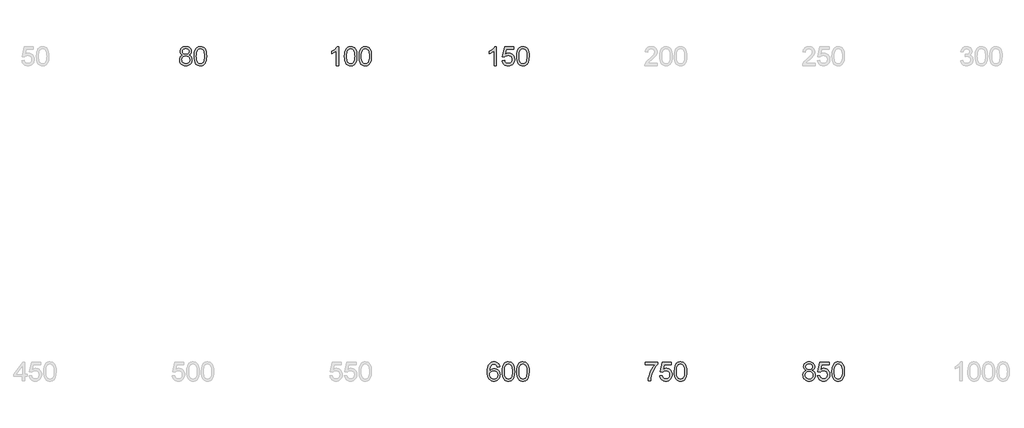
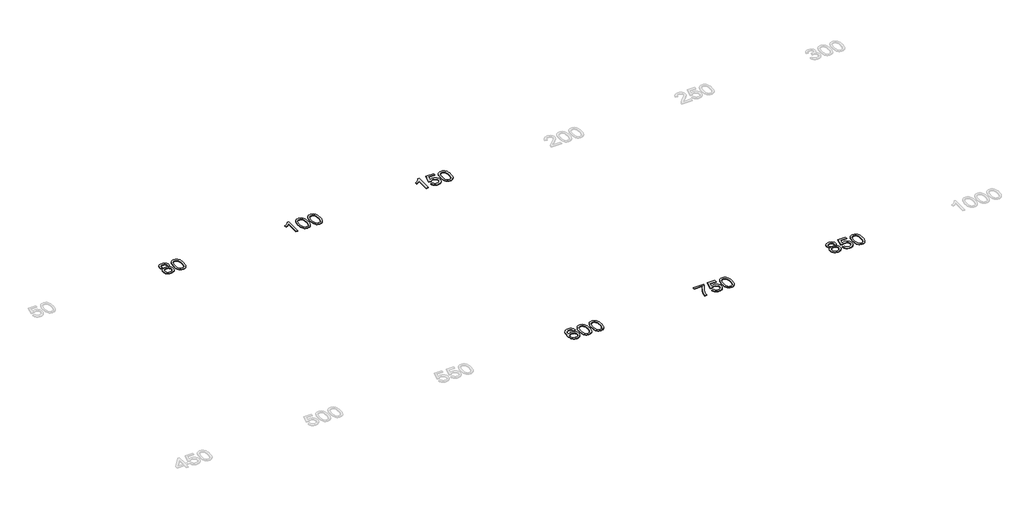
# One storey, part 4 of 8: 6 proxies.
"""IFC4 building model written with IfcOpenShell, lengths in millimetres."""

from ifc_helpers import new_model, si_unit, origin, origin_with_axes, place, context, project, spatial, polyline, outline, extrude, element, save

model = new_model("IFC4")

# Units and contexts
model_context = context("Model", 3, world=origin())
ifc_project = project(units=[si_unit("LENGTHUNIT", "METRE", prefix="MILLI")], contexts=[model_context])

# Site, building, storey
site = spatial("IfcSite", under=ifc_project)
building = spatial("IfcBuilding", under=site)
storey = spatial("IfcBuildingStorey", under=building, Name="Этаж 01", Elevation=0.0)

# Proxies
placement = place(None, origin())
element("IfcBuildingElementProxy", 1, Name="600 мм Arial", ObjectType="600 мм Arial", at=placement, inside=storey, context=model_context, shape_type="SweptSolid", body=[
    extrude(outline(polyline([(-21714.0240711, -3363.9163847), (-21754.3623319, -3344.050757), (-21770.0203093, -3331.4691927), (-21782.6708514, -3317.1217949), (-21799.3910881, -3283.6813215), (-21804.9645003, -3244.2811599), (-21801.9294738, -3213.5538162), (-21792.8243944, -3185.3832524), (-21777.6492621, -3159.7694685), (-21756.4040769, -3136.7124645), (-21730.1097113, -3117.6561771), (-21699.7870379, -3104.0445433), (-21665.4360566, -3095.877563), (-21627.0567674, -3093.1552362), (-21588.4935373, -3095.9419424), (-21553.8850386, -3104.3020607), (-21523.2312713, -3118.2355913), (-21496.5322355, -3137.7425341), (-21474.9007742, -3161.2501935), (-21459.4497304, -3187.1858742), (-21450.1791041, -3215.549576), (-21447.0888954, -3246.341299), (-21452.5887312, -3284.4722678), (-21469.0882387, -3317.3425241), (-21481.5088546, -3331.5933529), (-21496.7713588, -3344.1059393), (-21535.8220326, -3363.9163847), (-21511.0589758, -3374.4516053), (-21489.4505071, -3387.8103203), (-21470.9966265, -3403.9925295), (-21455.6973341, -3422.9982331), (-21443.6905855, -3444.4043667), (-21435.1143364, -3467.787866), (-21429.968587, -3493.1487311), (-21428.2533372, -3520.4869618), (-21431.6562457, -3558.0661076), (-21441.8649711, -3592.5182565), (-21458.8795133, -3623.8434084), (-21482.6998725, -3652.0415633), (-21512.0752498, -3675.3468877), (-21545.7548465, -3691.993548), (-21583.7386625, -3701.9815442), (-21626.0266978, -3705.3108762), (-21668.3147332, -3701.9677486), (-21706.2985492, -3691.9383657), (-21739.9781458, -3675.2227275), (-21769.3535232, -3651.8208341), (-21793.1738823, -3623.4249426), (-21810.1884246, -3591.7273102), (-21820.39715, -3556.7279369), (-21823.8000584, -3518.4268227), (-21822.0158308, -3489.8423916), (-21816.6631477, -3463.6859818), (-21807.7420094, -3439.9575931), (-21795.2524156, -3418.6572256), (-21779.470278, -3400.1711553), (-21760.6715081, -3384.8856584), (-21738.8561058, -3372.8007349), (-21714.0240711, -3363.9163847)]), holes=[polyline([(-21729.6222677, -3246.4884518), (-21727.9530031, -3263.7605115), (-21722.9452095, -3279.3771022), (-21714.5988867, -3293.3382239), (-21702.9140348, -3305.6438767), (-21688.0378066, -3315.6870551), (-21670.117355, -3322.860754), (-21649.1526798, -3327.1649734), (-21625.143781, -3328.5997132), (-21601.7280921, -3327.1741704), (-21581.2186708, -3322.8975422), (-21563.6155174, -3315.7698286), (-21548.9186316, -3305.7910295), (-21537.3303488, -3293.7428941), (-21529.0530039, -3280.4071718), (-21524.086597, -3265.7838625), (-21522.431128, -3249.8729662), (-21524.1417793, -3233.341269), (-21529.2737331, -3218.1799323), (-21537.8269895, -3204.388956), (-21549.8015484, -3191.9683401), (-21564.8295279, -3181.699834), (-21582.543046, -3174.3651867), (-21602.9421026, -3169.9643983), (-21626.0266978, -3168.4974689), (-21649.2906355, -3169.9322086), (-21669.7862612, -3174.236428), (-21687.5135748, -3181.4101269), (-21702.4725764, -3191.4533054), (-21714.3505664, -3203.5014407), (-21722.8348449, -3216.6900102), (-21727.925412, -3231.0190139), (-21729.6222677, -3246.4884518)]), polyline([(-21748.4578258, -3515.7780723), (-21745.3124348, -3544.6016266), (-21735.8762616, -3572.505476), (-21718.4570491, -3596.8408699), (-21691.3625402, -3614.9590582), (-21658.9153482, -3626.2162473), (-21625.4380866, -3629.9686436), (-21598.1964249, -3627.9958764), (-21574.1553365, -3622.0775748), (-21553.3148215, -3612.2137388), (-21535.6748798, -3598.4043684), (-21521.6401817, -3581.5507745), (-21511.6153973, -3562.554268), (-21505.6005267, -3541.4148488), (-21503.5955698, -3518.1325171), (-21505.6649061, -3494.4777048), (-21511.8729147, -3472.9566081), (-21522.2195958, -3453.5692269), (-21536.7049494, -3436.3155613), (-21554.8231377, -3422.1521045), (-21576.0683229, -3412.0353497), (-21600.4405051, -3405.9652967), (-21627.9396842, -3403.9419458), (-21654.7812743, -3405.9377056), (-21678.5050644, -3411.9249851), (-21699.1110547, -3421.9037842), (-21716.599245, -3435.8741029), (-21730.5373741, -3452.84266), (-21740.4931806, -3471.8161739), (-21746.4666645, -3492.7946447), (-21748.4578258, -3515.7780723)])]), origin_with_axes(), (0.0, 0.0, 1.0), 20.0),
    extrude(outline(polyline([(-21362.3288837, -3399.380209), (-21356.7922597, -3302.9031558), (-21349.8714796, -3261.9900794), (-21340.1823876, -3225.9606365), (-21327.7663702, -3194.5205215), (-21312.6648143, -3167.3754288), (-21294.8777199, -3144.5253583), (-21274.4050868, -3125.9703102), (-21251.1779374, -3111.6137153), (-21225.1272936, -3101.3590047), (-21196.2531555, -3095.2061784), (-21164.5555231, -3093.1552362), (-21118.1288153, -3098.0112786), (-21076.5581498, -3112.5794056), (-21041.7933013, -3136.2894002), (-21015.7840442, -3168.5710453), (-20996.1391457, -3209.1484293), (-20980.4673727, -3257.7456409), (-20970.203465, -3319.4578456), (-20966.7821625, -3399.380209), (-20972.2636042, -3495.3054393), (-20979.1154064, -3536.0805599), (-20988.7079294, -3572.0640176), (-21001.0273777, -3603.5179281), (-21016.0599557, -3630.7044076), (-21033.8056635, -3653.6234559), (-21054.2645009, -3672.275073), (-21077.5192416, -3686.7282369), (-21103.6526588, -3697.0519254), (-21132.6647526, -3703.2461385), (-21164.5555231, -3705.3108762), (-21206.0526121, -3701.7240268), (-21242.8408117, -3690.9634784), (-21274.9201216, -3673.0292311), (-21302.2905421, -3647.921285), (-21328.5573165, -3602.5338438), (-21347.3192983, -3545.9811841), (-21358.5764873, -3478.2633058), (-21362.3288837, -3399.380209)]), holes=[polyline([(-21286.9866511, -3399.2330562), (-21284.7793591, -3464.7298469), (-21278.1574832, -3517.746241), (-21267.1210233, -3558.2822383), (-21251.6699795, -3586.337839), (-21232.9815742, -3605.426316), (-21212.2330297, -3619.0609424), (-21189.424346, -3627.2417183), (-21164.5555231, -3629.9686436), (-21139.6867002, -3627.2325213), (-21116.8780165, -3619.0241542), (-21096.129472, -3605.3435426), (-21077.4410666, -3586.1906862), (-21061.9900228, -3558.0891003), (-21050.953563, -3517.5623), (-21044.3316871, -3464.6102853), (-21042.1243951, -3399.2330562), (-21044.2581107, -3335.4699094), (-21050.6592574, -3283.3870159), (-21061.3278352, -3242.9843758), (-21076.2638442, -3214.2619891), (-21094.6395499, -3194.2400115), (-21115.6272177, -3179.9385989), (-21139.2268477, -3171.3577514), (-21165.4384399, -3168.4974689), (-21190.1785041, -3171.0174605), (-21212.6009117, -3178.5774355), (-21232.7056627, -3191.1773939), (-21250.4927572, -3208.8173355), (-21266.4588358, -3240.0873051), (-21277.8631776, -3282.2465818), (-21284.7057827, -3335.2951655), (-21286.9866511, -3399.2330562)])]), origin_with_axes(), (0.0, 0.0, 1.0), 20.0),
])
element("IfcBuildingElementProxy", 2, Name="600 мм Arial", ObjectType="600 мм Arial", at=placement, inside=storey, context=model_context, shape_type="SweptSolid", body=[
    extrude(outline(polyline([(-16772.0022735, -3695.8930971), (-16847.3445061, -3695.8930971), (-16847.3445061, -3226.1813657), (-16878.7984167, -3251.6204057), (-16918.7136132, -3277.0226574), (-16960.6153725, -3299.2243358), (-16998.0289714, -3315.0616557), (-16998.0289714, -3243.8397015), (-16938.8551524, -3211.6500269), (-16887.5907964, -3173.3535112), (-16847.1789592, -3132.6289743), (-16820.5626969, -3093.1552362), (-16772.0022735, -3093.1552362), (-16772.0022735, -3695.8930971)])), origin_with_axes(), (0.0, 0.0, 1.0), 20.0),
    extrude(outline(polyline([(-16593.0644711, -3399.380209), (-16587.527847, -3302.9031558), (-16580.607067, -3261.9900794), (-16570.917975, -3225.9606365), (-16558.5019576, -3194.5205215), (-16543.4004017, -3167.3754288), (-16525.6133073, -3144.5253583), (-16505.1406742, -3125.9703102), (-16481.9135248, -3111.6137153), (-16455.862881, -3101.3590047), (-16426.9887429, -3095.2061784), (-16395.2911105, -3093.1552362), (-16348.8644027, -3098.0112786), (-16307.2937372, -3112.5794056), (-16272.5288887, -3136.2894002), (-16246.5196316, -3168.5710453), (-16226.8747331, -3209.1484293), (-16211.2029601, -3257.7456409), (-16200.9390524, -3319.4578456), (-16197.5177499, -3399.380209), (-16202.9991916, -3495.3054393), (-16209.8509937, -3536.0805599), (-16219.4435168, -3572.0640176), (-16231.7629651, -3603.5179281), (-16246.7955431, -3630.7044076), (-16264.5412509, -3653.6234559), (-16285.0000883, -3672.275073), (-16308.2548289, -3686.7282369), (-16334.3882462, -3697.0519254), (-16363.40034, -3703.2461385), (-16395.2911105, -3705.3108762), (-16436.7881995, -3701.7240268), (-16473.576399, -3690.9634784), (-16505.655709, -3673.0292311), (-16533.0261295, -3647.921285), (-16559.2929039, -3602.5338438), (-16578.0548857, -3545.9811841), (-16589.3120747, -3478.2633058), (-16593.0644711, -3399.380209)]), holes=[polyline([(-16517.7222385, -3399.2330562), (-16515.5149465, -3464.7298469), (-16508.8930706, -3517.746241), (-16497.8566107, -3558.2822383), (-16482.4055669, -3586.337839), (-16463.7171616, -3605.426316), (-16442.968617, -3619.0609424), (-16420.1599333, -3627.2417183), (-16395.2911105, -3629.9686436), (-16370.4222876, -3627.2325213), (-16347.6136039, -3619.0241542), (-16326.8650594, -3605.3435426), (-16308.176654, -3586.1906862), (-16292.7256102, -3558.0891003), (-16281.6891504, -3517.5623), (-16275.0672744, -3464.6102853), (-16272.8599825, -3399.2330562), (-16274.993698, -3335.4699094), (-16281.3948448, -3283.3870159), (-16292.0634226, -3242.9843758), (-16306.9994316, -3214.2619891), (-16325.3751373, -3194.2400115), (-16346.3628051, -3179.9385989), (-16369.9624351, -3171.3577514), (-16396.1740273, -3168.4974689), (-16420.9140914, -3171.0174605), (-16443.336499, -3178.5774355), (-16463.4412501, -3191.1773939), (-16481.2283445, -3208.8173355), (-16497.1944231, -3240.0873051), (-16508.598765, -3282.2465818), (-16515.4413701, -3335.2951655), (-16517.7222385, -3399.2330562)])]), origin_with_axes(), (0.0, 0.0, 1.0), 20.0),
    extrude(outline(polyline([(-16131.5932963, -3399.380209), (-16126.0566723, -3302.9031558), (-16119.1358923, -3261.9900794), (-16109.4468002, -3225.9606365), (-16097.0307829, -3194.5205215), (-16081.929227, -3167.3754288), (-16064.1421325, -3144.5253583), (-16043.6694995, -3125.9703102), (-16020.44235, -3111.6137153), (-15994.3917062, -3101.3590047), (-15965.5175681, -3095.2061784), (-15933.8199357, -3093.1552362), (-15887.3932279, -3098.0112786), (-15845.8225625, -3112.5794056), (-15811.0577139, -3136.2894002), (-15785.0484569, -3168.5710453), (-15765.4035583, -3209.1484293), (-15749.7317853, -3257.7456409), (-15739.4678777, -3319.4578456), (-15736.0465751, -3399.380209), (-15741.5280168, -3495.3054393), (-15748.379819, -3536.0805599), (-15757.972342, -3572.0640176), (-15770.2917903, -3603.5179281), (-15785.3243684, -3630.7044076), (-15803.0700761, -3653.6234559), (-15823.5289136, -3672.275073), (-15846.7836542, -3686.7282369), (-15872.9170714, -3697.0519254), (-15901.9291653, -3703.2461385), (-15933.8199357, -3705.3108762), (-15975.3170248, -3701.7240268), (-16012.1052243, -3690.9634784), (-16044.1845343, -3673.0292311), (-16071.5549547, -3647.921285), (-16097.8217292, -3602.5338438), (-16116.5837109, -3545.9811841), (-16127.8409, -3478.2633058), (-16131.5932963, -3399.380209)]), holes=[polyline([(-16056.2510637, -3399.2330562), (-16054.0437717, -3464.7298469), (-16047.4218958, -3517.746241), (-16036.385436, -3558.2822383), (-16020.9343922, -3586.337839), (-16002.2459868, -3605.426316), (-15981.4974423, -3619.0609424), (-15958.6887586, -3627.2417183), (-15933.8199357, -3629.9686436), (-15908.9511128, -3627.2325213), (-15886.1424291, -3619.0241542), (-15865.3938846, -3605.3435426), (-15846.7054793, -3586.1906862), (-15831.2544355, -3558.0891003), (-15820.2179756, -3517.5623), (-15813.5960997, -3464.6102853), (-15811.3888077, -3399.2330562), (-15813.5225233, -3335.4699094), (-15819.92367, -3283.3870159), (-15830.5922479, -3242.9843758), (-15845.5282569, -3214.2619891), (-15863.9039625, -3194.2400115), (-15884.8916304, -3179.9385989), (-15908.4912603, -3171.3577514), (-15934.7028525, -3168.4974689), (-15959.4429167, -3171.0174605), (-15981.8653243, -3178.5774355), (-16001.9700753, -3191.1773939), (-16019.7571698, -3208.8173355), (-16035.7232484, -3240.0873051), (-16047.1275902, -3282.2465818), (-16053.9701953, -3335.2951655), (-16056.2510637, -3399.2330562)])]), origin_with_axes(), (0.0, 0.0, 1.0), 20.0),
])
element("IfcBuildingElementProxy", 3, Name="600 мм Arial", ObjectType="600 мм Arial", at=placement, inside=storey, context=model_context, shape_type="SweptSolid", body=[
    extrude(outline(polyline([(-11772.0022735, -3695.8930971), (-11847.3445061, -3695.8930971), (-11847.3445061, -3226.1813657), (-11878.7984167, -3251.6204057), (-11918.7136132, -3277.0226574), (-11960.6153725, -3299.2243358), (-11998.0289714, -3315.0616557), (-11998.0289714, -3243.8397015), (-11938.8551524, -3211.6500269), (-11887.5907964, -3173.3535112), (-11847.1789592, -3132.6289743), (-11820.5626969, -3093.1552362), (-11772.0022735, -3093.1552362), (-11772.0022735, -3695.8930971)])), origin_with_axes(), (0.0, 0.0, 1.0), 20.0),
    extrude(outline(polyline([(-11593.0644711, -3535.7908528), (-11517.7222385, -3526.3730738), (-11512.0936439, -3550.5935046), (-11503.8898754, -3571.6041651), (-11493.110933, -3589.4050551), (-11479.7568166, -3603.9961747), (-11463.8551173, -3615.3591299), (-11445.4334264, -3623.4755264), (-11424.4917438, -3628.3453643), (-11401.0300696, -3629.9686436), (-11372.335274, -3627.7107679), (-11347.0249927, -3620.9371406), (-11325.0992258, -3609.6477619), (-11306.5579732, -3593.8426317), (-11291.8151023, -3574.3034992), (-11281.2844802, -3551.8121137), (-11274.9661069, -3526.3684752), (-11272.8599825, -3497.9725837), (-11274.8327497, -3471.1355922), (-11280.7510513, -3447.2784448), (-11290.6148873, -3426.4011416), (-11304.4242577, -3408.5036825), (-11322.2251477, -3394.1470876), (-11344.0635426, -3383.892377), (-11369.9394425, -3377.7395507), (-11399.8528472, -3375.6886085), (-11436.4019234, -3378.9627583), (-11465.9980299, -3388.7852076), (-11489.6344481, -3403.8315812), (-11508.3044594, -3422.7775039), (-11583.646692, -3413.3597248), (-11517.7222385, -3102.5730153), (-11225.7710871, -3102.5730153), (-11225.7710871, -3177.9152479), (-11456.8009801, -3177.9152479), (-11489.0274428, -3343.9036042), (-11462.4387716, -3324.8473168), (-11435.2063069, -3311.235683), (-11407.3300488, -3303.0687027), (-11378.8099971, -3300.3463759), (-11342.1183666, -3303.7216932), (-11308.4157773, -3313.8476451), (-11277.7022292, -3330.7242317), (-11249.9777224, -3354.3514528), (-11227.0264844, -3383.2853717), (-11210.632743, -3416.0820516), (-11200.7964981, -3452.7414924), (-11197.5177499, -3493.2636942), (-11200.4700029, -3532.2959739), (-11209.3267619, -3568.6059268), (-11224.088027, -3602.193553), (-11244.753798, -3633.0588524), (-11276.0605558, -3664.6691128), (-11312.5912379, -3687.2478703), (-11354.3458444, -3700.7951247), (-11401.3243752, -3705.3108762), (-11440.2049035, -3702.409207), (-11475.3238385, -3693.7041993), (-11506.6811801, -3679.1958531), (-11534.2769282, -3658.8841684), (-11557.2373633, -3633.7808208), (-11574.6887654, -3604.8974856), (-11586.6311347, -3572.234163), (-11593.0644711, -3535.7908528)])), origin_with_axes(), (0.0, 0.0, 1.0), 20.0),
    extrude(outline(polyline([(-11131.5932963, -3399.380209), (-11126.0566723, -3302.9031558), (-11119.1358923, -3261.9900794), (-11109.4468002, -3225.9606365), (-11097.0307829, -3194.5205215), (-11081.929227, -3167.3754288), (-11064.1421325, -3144.5253583), (-11043.6694995, -3125.9703102), (-11020.44235, -3111.6137153), (-10994.3917062, -3101.3590047), (-10965.5175681, -3095.2061784), (-10933.8199357, -3093.1552362), (-10887.3932279, -3098.0112786), (-10845.8225625, -3112.5794056), (-10811.0577139, -3136.2894002), (-10785.0484569, -3168.5710453), (-10765.4035583, -3209.1484293), (-10749.7317853, -3257.7456409), (-10739.4678777, -3319.4578456), (-10736.0465751, -3399.380209), (-10741.5280168, -3495.3054393), (-10748.379819, -3536.0805599), (-10757.972342, -3572.0640176), (-10770.2917903, -3603.5179281), (-10785.3243684, -3630.7044076), (-10803.0700761, -3653.6234559), (-10823.5289136, -3672.275073), (-10846.7836542, -3686.7282369), (-10872.9170714, -3697.0519254), (-10901.9291653, -3703.2461385), (-10933.8199357, -3705.3108762), (-10975.3170248, -3701.7240268), (-11012.1052243, -3690.9634784), (-11044.1845343, -3673.0292311), (-11071.5549547, -3647.921285), (-11097.8217292, -3602.5338438), (-11116.5837109, -3545.9811841), (-11127.8409, -3478.2633058), (-11131.5932963, -3399.380209)]), holes=[polyline([(-11056.2510637, -3399.2330562), (-11054.0437717, -3464.7298469), (-11047.4218958, -3517.746241), (-11036.385436, -3558.2822383), (-11020.9343922, -3586.337839), (-11002.2459868, -3605.426316), (-10981.4974423, -3619.0609424), (-10958.6887586, -3627.2417183), (-10933.8199357, -3629.9686436), (-10908.9511128, -3627.2325213), (-10886.1424291, -3619.0241542), (-10865.3938846, -3605.3435426), (-10846.7054793, -3586.1906862), (-10831.2544355, -3558.0891003), (-10820.2179756, -3517.5623), (-10813.5960997, -3464.6102853), (-10811.3888077, -3399.2330562), (-10813.5225233, -3335.4699094), (-10819.92367, -3283.3870159), (-10830.5922479, -3242.9843758), (-10845.5282569, -3214.2619891), (-10863.9039625, -3194.2400115), (-10884.8916304, -3179.9385989), (-10908.4912603, -3171.3577514), (-10934.7028525, -3168.4974689), (-10959.4429167, -3171.0174605), (-10981.8653243, -3178.5774355), (-11001.9700753, -3191.1773939), (-11019.7571698, -3208.8173355), (-11035.7232484, -3240.0873051), (-11047.1275902, -3282.2465818), (-11053.9701953, -3335.2951655), (-11056.2510637, -3399.2330562)])]), origin_with_axes(), (0.0, 0.0, 1.0), 20.0),
])
element("IfcBuildingElementProxy", 4, Name="600 мм Arial", ObjectType="600 мм Arial", at=placement, inside=storey, context=model_context, shape_type="SweptSolid", body=[
    extrude(outline(polyline([(-11668.4067037, -13253.2574805), (-11743.7489363, -13262.6752596), (-11755.8890421, -13225.3352371), (-11772.2965791, -13199.8410148), (-11788.492584, -13186.1282135), (-11806.4728165, -13176.3333554), (-11826.2372767, -13170.4564405), (-11847.7859645, -13168.4974689), (-11882.8083305, -13173.0592056), (-11915.7705572, -13186.7444158), (-11944.0790768, -13215.5679701), (-11967.2004602, -13255.2440433), (-11976.2365617, -13280.5497261), (-11982.8170509, -13311.3644417), (-11988.6111923, -13389.5209716), (-11958.3896864, -13354.2594823), (-11922.171704, -13329.4090535), (-11881.980596, -13314.6753796), (-11839.8397134, -13309.764155), (-11803.6401251, -13313.1210782), (-11770.2364399, -13323.1918478), (-11739.6286579, -13339.9764639), (-11711.8167791, -13363.4749263), (-11688.7045928, -13392.2892836), (-11672.1958882, -13425.0215841), (-11662.2906655, -13461.6718279), (-11658.9889246, -13502.2400149), (-11660.543226, -13529.7070043), (-11665.2061303, -13556.1899095), (-11672.9776375, -13581.6887303), (-11683.8577475, -13606.2034667), (-11697.4601843, -13628.8190124), (-11713.3986717, -13648.6202608), (-11731.6732098, -13665.6072119), (-11752.2837986, -13679.7798658), (-11774.7889796, -13690.9496828), (-11798.7472946, -13698.9281236), (-11824.1587434, -13703.7151881), (-11851.0233261, -13705.3108762), (-11895.9371192, -13701.0802333), (-11936.5007077, -13688.3883044), (-11972.7140916, -13667.2350897), (-12004.5772709, -13637.6205891), (-12030.5543383, -13598.2940038), (-12049.1093864, -13548.0045351), (-12060.2424153, -13486.7521829), (-12063.9534249, -13414.5369472), (-12059.8331465, -13333.5753171), (-12047.4723115, -13264.4778814), (-12026.8709198, -13207.24464), (-12013.4800152, -13183.0770922), (-11998.0289714, -13161.8755929), (-11966.7681988, -13131.8104369), (-11930.5226252, -13110.3353254), (-11889.2922506, -13097.4502585), (-11843.077075, -13093.1552362), (-11808.3766058, -13095.8131837), (-11776.9686805, -13103.7870259), (-11748.853299, -13117.076763), (-11724.0304614, -13135.6823949), (-11703.1715522, -13158.9785222), (-11686.9479562, -13186.3397456), (-11675.3596734, -13217.7660651), (-11668.4067037, -13253.2574805)]), holes=[polyline([(-11988.6111923, -13501.0627925), (-11984.2517906, -13534.4480836), (-11971.1735857, -13566.3250584), (-11950.8664996, -13593.7322671), (-11924.8204543, -13613.7082594), (-11893.3849378, -13625.9035476), (-11856.909438, -13629.9686436), (-11830.7208385, -13627.8625192), (-11807.1901864, -13621.5441459), (-11786.3174817, -13611.0135238), (-11768.1027244, -13596.2706528), (-11753.3276637, -13577.9133413), (-11742.774049, -13556.5393974), (-11736.4418802, -13532.1488211), (-11734.3311572, -13504.7416124), (-11736.414289, -13478.4058601), (-11742.6636844, -13455.0223608), (-11753.0793434, -13434.5911145), (-11767.661266, -13417.1121212), (-11785.9312056, -13403.1096128), (-11807.4109156, -13393.107821), (-11832.100396, -13387.106746), (-11859.9996468, -13385.1063876), (-11885.8387584, -13387.106746), (-11909.645322, -13393.107821), (-11931.4193376, -13403.1096128), (-11951.1608052, -13417.1121212), (-11967.5453495, -13434.3611882), (-11979.2485955, -13454.1026558), (-11986.2705431, -13476.3365239), (-11988.6111923, -13501.0627925)])]), origin_with_axes(), (0.0, 0.0, 1.0), 20.0),
    extrude(outline(polyline([(-11593.0644711, -13399.380209), (-11587.527847, -13302.9031558), (-11580.607067, -13261.9900794), (-11570.917975, -13225.9606365), (-11558.5019576, -13194.5205215), (-11543.4004017, -13167.3754288), (-11525.6133073, -13144.5253583), (-11505.1406742, -13125.9703102), (-11481.9135248, -13111.6137153), (-11455.862881, -13101.3590047), (-11426.9887429, -13095.2061784), (-11395.2911105, -13093.1552362), (-11348.8644027, -13098.0112786), (-11307.2937372, -13112.5794056), (-11272.5288887, -13136.2894002), (-11246.5196316, -13168.5710453), (-11226.8747331, -13209.1484293), (-11211.2029601, -13257.7456409), (-11200.9390524, -13319.4578456), (-11197.5177499, -13399.380209), (-11202.9991916, -13495.3054393), (-11209.8509937, -13536.0805599), (-11219.4435168, -13572.0640176), (-11231.7629651, -13603.5179281), (-11246.7955431, -13630.7044076), (-11264.5412509, -13653.6234559), (-11285.0000883, -13672.275073), (-11308.2548289, -13686.7282369), (-11334.3882462, -13697.0519254), (-11363.40034, -13703.2461385), (-11395.2911105, -13705.3108762), (-11436.7881995, -13701.7240268), (-11473.576399, -13690.9634784), (-11505.655709, -13673.0292311), (-11533.0261295, -13647.921285), (-11559.2929039, -13602.5338438), (-11578.0548857, -13545.9811841), (-11589.3120747, -13478.2633058), (-11593.0644711, -13399.380209)]), holes=[polyline([(-11517.7222385, -13399.2330562), (-11515.5149465, -13464.7298469), (-11508.8930706, -13517.746241), (-11497.8566107, -13558.2822383), (-11482.4055669, -13586.337839), (-11463.7171616, -13605.426316), (-11442.968617, -13619.0609424), (-11420.1599333, -13627.2417183), (-11395.2911105, -13629.9686436), (-11370.4222876, -13627.2325213), (-11347.6136039, -13619.0241542), (-11326.8650594, -13605.3435426), (-11308.176654, -13586.1906862), (-11292.7256102, -13558.0891003), (-11281.6891504, -13517.5623), (-11275.0672744, -13464.6102853), (-11272.8599825, -13399.2330562), (-11274.993698, -13335.4699094), (-11281.3948448, -13283.3870159), (-11292.0634226, -13242.9843758), (-11306.9994316, -13214.2619891), (-11325.3751373, -13194.2400115), (-11346.3628051, -13179.9385989), (-11369.9624351, -13171.3577514), (-11396.1740273, -13168.4974689), (-11420.9140914, -13171.0174605), (-11443.336499, -13178.5774355), (-11463.4412501, -13191.1773939), (-11481.2283445, -13208.8173355), (-11497.1944231, -13240.0873051), (-11508.598765, -13282.2465818), (-11515.4413701, -13335.2951655), (-11517.7222385, -13399.2330562)])]), origin_with_axes(), (0.0, 0.0, 1.0), 20.0),
    extrude(outline(polyline([(-11131.5932963, -13399.380209), (-11126.0566723, -13302.9031558), (-11119.1358923, -13261.9900794), (-11109.4468002, -13225.9606365), (-11097.0307829, -13194.5205215), (-11081.929227, -13167.3754288), (-11064.1421325, -13144.5253583), (-11043.6694995, -13125.9703102), (-11020.44235, -13111.6137153), (-10994.3917062, -13101.3590047), (-10965.5175681, -13095.2061784), (-10933.8199357, -13093.1552362), (-10887.3932279, -13098.0112786), (-10845.8225625, -13112.5794056), (-10811.0577139, -13136.2894002), (-10785.0484569, -13168.5710453), (-10765.4035583, -13209.1484293), (-10749.7317853, -13257.7456409), (-10739.4678777, -13319.4578456), (-10736.0465751, -13399.380209), (-10741.5280168, -13495.3054393), (-10748.379819, -13536.0805599), (-10757.972342, -13572.0640176), (-10770.2917903, -13603.5179281), (-10785.3243684, -13630.7044076), (-10803.0700761, -13653.6234559), (-10823.5289136, -13672.275073), (-10846.7836542, -13686.7282369), (-10872.9170714, -13697.0519254), (-10901.9291653, -13703.2461385), (-10933.8199357, -13705.3108762), (-10975.3170248, -13701.7240268), (-11012.1052243, -13690.9634784), (-11044.1845343, -13673.0292311), (-11071.5549547, -13647.921285), (-11097.8217292, -13602.5338438), (-11116.5837109, -13545.9811841), (-11127.8409, -13478.2633058), (-11131.5932963, -13399.380209)]), holes=[polyline([(-11056.2510637, -13399.2330562), (-11054.0437717, -13464.7298469), (-11047.4218958, -13517.746241), (-11036.385436, -13558.2822383), (-11020.9343922, -13586.337839), (-11002.2459868, -13605.426316), (-10981.4974423, -13619.0609424), (-10958.6887586, -13627.2417183), (-10933.8199357, -13629.9686436), (-10908.9511128, -13627.2325213), (-10886.1424291, -13619.0241542), (-10865.3938846, -13605.3435426), (-10846.7054793, -13586.1906862), (-10831.2544355, -13558.0891003), (-10820.2179756, -13517.5623), (-10813.5960997, -13464.6102853), (-10811.3888077, -13399.2330562), (-10813.5225233, -13335.4699094), (-10819.92367, -13283.3870159), (-10830.5922479, -13242.9843758), (-10845.5282569, -13214.2619891), (-10863.9039625, -13194.2400115), (-10884.8916304, -13179.9385989), (-10908.4912603, -13171.3577514), (-10934.7028525, -13168.4974689), (-10959.4429167, -13171.0174605), (-10981.8653243, -13178.5774355), (-11001.9700753, -13191.1773939), (-11019.7571698, -13208.8173355), (-11035.7232484, -13240.0873051), (-11047.1275902, -13282.2465818), (-11053.9701953, -13335.2951655), (-11056.2510637, -13399.2330562)])]), origin_with_axes(), (0.0, 0.0, 1.0), 20.0),
])
element("IfcBuildingElementProxy", 5, Name="600 мм Arial", ObjectType="600 мм Arial", at=placement, inside=storey, context=model_context, shape_type="SweptSolid", body=[
    extrude(outline(polyline([(-7054.5356458, -13177.9152479), (-7054.5356458, -13102.5730153), (-6658.9889246, -13102.5730153), (-6658.9889246, -13163.4942737), (-6715.3668404, -13234.8449867), (-6771.1929331, -13325.5830808), (-6820.4339382, -13427.4312112), (-6840.3225586, -13479.4175356), (-6857.0565908, -13532.1120329), (-6875.0092322, -13610.4341097), (-6885.0156224, -13695.8930971), (-6960.3578551, -13695.8930971), (-6952.2092689, -13618.233208), (-6930.4122606, -13525.9316154), (-6914.5427511, -13476.5664501), (-6895.5554416, -13428.0933987), (-6873.4503322, -13380.5124612), (-6848.2274229, -13333.8236375), (-6792.9715472, -13248.6037733), (-6734.3311572, -13177.9152479), (-7054.5356458, -13177.9152479)])), origin_with_axes(), (0.0, 0.0, 1.0), 20.0),
    extrude(outline(polyline([(-6593.0644711, -13535.7908528), (-6517.7222385, -13526.3730738), (-6512.0936439, -13550.5935046), (-6503.8898754, -13571.6041651), (-6493.110933, -13589.4050551), (-6479.7568166, -13603.9961747), (-6463.8551173, -13615.3591299), (-6445.4334264, -13623.4755264), (-6424.4917438, -13628.3453643), (-6401.0300696, -13629.9686436), (-6372.335274, -13627.7107679), (-6347.0249927, -13620.9371406), (-6325.0992258, -13609.6477619), (-6306.5579732, -13593.8426317), (-6291.8151023, -13574.3034992), (-6281.2844802, -13551.8121137), (-6274.9661069, -13526.3684752), (-6272.8599825, -13497.9725837), (-6274.8327497, -13471.1355922), (-6280.7510513, -13447.2784448), (-6290.6148873, -13426.4011416), (-6304.4242577, -13408.5036825), (-6322.2251477, -13394.1470876), (-6344.0635426, -13383.892377), (-6369.9394425, -13377.7395507), (-6399.8528472, -13375.6886085), (-6436.4019234, -13378.9627583), (-6465.9980299, -13388.7852076), (-6489.6344481, -13403.8315812), (-6508.3044594, -13422.7775039), (-6583.646692, -13413.3597248), (-6517.7222385, -13102.5730153), (-6225.7710871, -13102.5730153), (-6225.7710871, -13177.9152479), (-6456.8009801, -13177.9152479), (-6489.0274428, -13343.9036042), (-6462.4387716, -13324.8473168), (-6435.2063069, -13311.235683), (-6407.3300488, -13303.0687027), (-6378.8099971, -13300.3463759), (-6342.1183666, -13303.7216932), (-6308.4157773, -13313.8476451), (-6277.7022292, -13330.7242317), (-6249.9777224, -13354.3514528), (-6227.0264844, -13383.2853717), (-6210.632743, -13416.0820516), (-6200.7964981, -13452.7414924), (-6197.5177499, -13493.2636942), (-6200.4700029, -13532.2959739), (-6209.3267619, -13568.6059268), (-6224.088027, -13602.193553), (-6244.753798, -13633.0588524), (-6276.0605558, -13664.6691128), (-6312.5912379, -13687.2478703), (-6354.3458444, -13700.7951247), (-6401.3243752, -13705.3108762), (-6440.2049035, -13702.409207), (-6475.3238385, -13693.7041993), (-6506.6811801, -13679.1958531), (-6534.2769282, -13658.8841684), (-6557.2373633, -13633.7808208), (-6574.6887654, -13604.8974856), (-6586.6311347, -13572.234163), (-6593.0644711, -13535.7908528)])), origin_with_axes(), (0.0, 0.0, 1.0), 20.0),
    extrude(outline(polyline([(-6131.5932963, -13399.380209), (-6126.0566723, -13302.9031558), (-6119.1358923, -13261.9900794), (-6109.4468002, -13225.9606365), (-6097.0307829, -13194.5205215), (-6081.929227, -13167.3754288), (-6064.1421325, -13144.5253583), (-6043.6694995, -13125.9703102), (-6020.44235, -13111.6137153), (-5994.3917062, -13101.3590047), (-5965.5175681, -13095.2061784), (-5933.8199357, -13093.1552362), (-5887.3932279, -13098.0112786), (-5845.8225625, -13112.5794056), (-5811.0577139, -13136.2894002), (-5785.0484569, -13168.5710453), (-5765.4035583, -13209.1484293), (-5749.7317853, -13257.7456409), (-5739.4678777, -13319.4578456), (-5736.0465751, -13399.380209), (-5741.5280168, -13495.3054393), (-5748.379819, -13536.0805599), (-5757.972342, -13572.0640176), (-5770.2917903, -13603.5179281), (-5785.3243684, -13630.7044076), (-5803.0700761, -13653.6234559), (-5823.5289136, -13672.275073), (-5846.7836542, -13686.7282369), (-5872.9170714, -13697.0519254), (-5901.9291653, -13703.2461385), (-5933.8199357, -13705.3108762), (-5975.3170248, -13701.7240268), (-6012.1052243, -13690.9634784), (-6044.1845343, -13673.0292311), (-6071.5549547, -13647.921285), (-6097.8217292, -13602.5338438), (-6116.5837109, -13545.9811841), (-6127.8409, -13478.2633058), (-6131.5932963, -13399.380209)]), holes=[polyline([(-6056.2510637, -13399.2330562), (-6054.0437717, -13464.7298469), (-6047.4218958, -13517.746241), (-6036.385436, -13558.2822383), (-6020.9343922, -13586.337839), (-6002.2459868, -13605.426316), (-5981.4974423, -13619.0609424), (-5958.6887586, -13627.2417183), (-5933.8199357, -13629.9686436), (-5908.9511128, -13627.2325213), (-5886.1424291, -13619.0241542), (-5865.3938846, -13605.3435426), (-5846.7054793, -13586.1906862), (-5831.2544355, -13558.0891003), (-5820.2179756, -13517.5623), (-5813.5960997, -13464.6102853), (-5811.3888077, -13399.2330562), (-5813.5225233, -13335.4699094), (-5819.92367, -13283.3870159), (-5830.5922479, -13242.9843758), (-5845.5282569, -13214.2619891), (-5863.9039625, -13194.2400115), (-5884.8916304, -13179.9385989), (-5908.4912603, -13171.3577514), (-5934.7028525, -13168.4974689), (-5959.4429167, -13171.0174605), (-5981.8653243, -13178.5774355), (-6001.9700753, -13191.1773939), (-6019.7571698, -13208.8173355), (-6035.7232484, -13240.0873051), (-6047.1275902, -13282.2465818), (-6053.9701953, -13335.2951655), (-6056.2510637, -13399.2330562)])]), origin_with_axes(), (0.0, 0.0, 1.0), 20.0),
])
element("IfcBuildingElementProxy", 6, Name="600 мм Arial", ObjectType="600 мм Arial", at=placement, inside=storey, context=model_context, shape_type="SweptSolid", body=[
    extrude(outline(polyline([(-1944.7596585, -13363.9163847), (-1985.0979192, -13344.050757), (-2000.7558966, -13331.4691927), (-2013.4064388, -13317.1217949), (-2030.1266754, -13283.6813215), (-2035.7000877, -13244.2811599), (-2032.6650612, -13213.5538162), (-2023.5599818, -13185.3832524), (-2008.3848495, -13159.7694685), (-1987.1396643, -13136.7124645), (-1960.8452987, -13117.6561771), (-1930.5226252, -13104.0445433), (-1896.1716439, -13095.877563), (-1857.7923548, -13093.1552362), (-1819.2291247, -13095.9419424), (-1784.620626, -13104.3020607), (-1753.9668587, -13118.2355913), (-1727.2678229, -13137.7425341), (-1705.6363616, -13161.2501935), (-1690.1853178, -13187.1858742), (-1680.9146915, -13215.549576), (-1677.8244828, -13246.341299), (-1683.3243186, -13284.4722678), (-1699.8238261, -13317.3425241), (-1712.2444419, -13331.5933529), (-1727.5069462, -13344.1059393), (-1766.55762, -13363.9163847), (-1741.7945632, -13374.4516053), (-1720.1860945, -13387.8103203), (-1701.7322139, -13403.9925295), (-1686.4329214, -13422.9982331), (-1674.4261728, -13444.4043667), (-1665.8499238, -13467.787866), (-1660.7041744, -13493.1487311), (-1658.9889246, -13520.4869618), (-1662.3918331, -13558.0661076), (-1672.6005584, -13592.5182565), (-1689.6151007, -13623.8434084), (-1713.4354599, -13652.0415633), (-1742.8108372, -13675.3468877), (-1776.4904339, -13691.993548), (-1814.4742499, -13701.9815442), (-1856.7622852, -13705.3108762), (-1899.0503206, -13701.9677486), (-1937.0341366, -13691.9383657), (-1970.7137332, -13675.2227275), (-2000.0891105, -13651.8208341), (-2023.9094697, -13623.4249426), (-2040.924012, -13591.7273102), (-2051.1327374, -13556.7279369), (-2054.5356458, -13518.4268227), (-2052.7514181, -13489.8423916), (-2047.3987351, -13463.6859818), (-2038.4775967, -13439.9575931), (-2025.988003, -13418.6572256), (-2010.2058654, -13400.1711553), (-1991.4070954, -13384.8856584), (-1969.5916931, -13372.8007349), (-1944.7596585, -13363.9163847)]), holes=[polyline([(-1960.3578551, -13246.4884518), (-1958.6885905, -13263.7605115), (-1953.6807968, -13279.3771022), (-1945.3344741, -13293.3382239), (-1933.6496222, -13305.6438767), (-1918.773394, -13315.6870551), (-1900.8529423, -13322.860754), (-1879.8882671, -13327.1649734), (-1855.8793684, -13328.5997132), (-1832.4636794, -13327.1741704), (-1811.9542582, -13322.8975422), (-1794.3511047, -13315.7698286), (-1779.654219, -13305.7910295), (-1768.0659362, -13293.7428941), (-1759.7885913, -13280.4071718), (-1754.8221843, -13265.7838625), (-1753.1667154, -13249.8729662), (-1754.8773666, -13233.341269), (-1760.0093205, -13218.1799323), (-1768.5625769, -13204.388956), (-1780.5371358, -13191.9683401), (-1795.5651153, -13181.699834), (-1813.2786334, -13174.3651867), (-1833.67769, -13169.9643983), (-1856.7622852, -13168.4974689), (-1880.0262229, -13169.9322086), (-1900.5218485, -13174.236428), (-1918.2491622, -13181.4101269), (-1933.2081638, -13191.4533054), (-1945.0861537, -13203.5014407), (-1953.5704322, -13216.6900102), (-1958.6609994, -13231.0190139), (-1960.3578551, -13246.4884518)]), polyline([(-1979.1934132, -13515.7780723), (-1976.0480221, -13544.6016266), (-1966.611849, -13572.505476), (-1949.1926365, -13596.8408699), (-1922.0981276, -13614.9590582), (-1889.6509356, -13626.2162473), (-1856.173674, -13629.9686436), (-1828.9320123, -13627.9958764), (-1804.8909239, -13622.0775748), (-1784.0504089, -13612.2137388), (-1766.4104672, -13598.4043684), (-1752.3757691, -13581.5507745), (-1742.3509847, -13562.554268), (-1736.3361141, -13541.4148488), (-1734.3311572, -13518.1325171), (-1736.4004934, -13494.4777048), (-1742.6085021, -13472.9566081), (-1752.9551832, -13453.5692269), (-1767.4405368, -13436.3155613), (-1785.558725, -13422.1521045), (-1806.8039103, -13412.0353497), (-1831.1760924, -13405.9652967), (-1858.6752716, -13403.9419458), (-1885.5168617, -13405.9377056), (-1909.2406518, -13411.9249851), (-1929.8466421, -13421.9037842), (-1947.3348324, -13435.8741029), (-1961.2729615, -13452.84266), (-1971.228768, -13471.8161739), (-1977.2022519, -13492.7946447), (-1979.1934132, -13515.7780723)])]), origin_with_axes(), (0.0, 0.0, 1.0), 20.0),
    extrude(outline(polyline([(-1593.0644711, -13535.7908528), (-1517.7222385, -13526.3730738), (-1512.0936439, -13550.5935046), (-1503.8898754, -13571.6041651), (-1493.110933, -13589.4050551), (-1479.7568166, -13603.9961747), (-1463.8551173, -13615.3591299), (-1445.4334264, -13623.4755264), (-1424.4917438, -13628.3453643), (-1401.0300696, -13629.9686436), (-1372.335274, -13627.7107679), (-1347.0249927, -13620.9371406), (-1325.0992258, -13609.6477619), (-1306.5579732, -13593.8426317), (-1291.8151023, -13574.3034992), (-1281.2844802, -13551.8121137), (-1274.9661069, -13526.3684752), (-1272.8599825, -13497.9725837), (-1274.8327497, -13471.1355922), (-1280.7510513, -13447.2784448), (-1290.6148873, -13426.4011416), (-1304.4242577, -13408.5036825), (-1322.2251477, -13394.1470876), (-1344.0635426, -13383.892377), (-1369.9394425, -13377.7395507), (-1399.8528472, -13375.6886085), (-1436.4019234, -13378.9627583), (-1465.9980299, -13388.7852076), (-1489.6344481, -13403.8315812), (-1508.3044594, -13422.7775039), (-1583.646692, -13413.3597248), (-1517.7222385, -13102.5730153), (-1225.7710871, -13102.5730153), (-1225.7710871, -13177.9152479), (-1456.8009801, -13177.9152479), (-1489.0274428, -13343.9036042), (-1462.4387716, -13324.8473168), (-1435.2063069, -13311.235683), (-1407.3300488, -13303.0687027), (-1378.8099971, -13300.3463759), (-1342.1183666, -13303.7216932), (-1308.4157773, -13313.8476451), (-1277.7022292, -13330.7242317), (-1249.9777224, -13354.3514528), (-1227.0264844, -13383.2853717), (-1210.632743, -13416.0820516), (-1200.7964981, -13452.7414924), (-1197.5177499, -13493.2636942), (-1200.4700029, -13532.2959739), (-1209.3267619, -13568.6059268), (-1224.088027, -13602.193553), (-1244.753798, -13633.0588524), (-1276.0605558, -13664.6691128), (-1312.5912379, -13687.2478703), (-1354.3458444, -13700.7951247), (-1401.3243752, -13705.3108762), (-1440.2049035, -13702.409207), (-1475.3238385, -13693.7041993), (-1506.6811801, -13679.1958531), (-1534.2769282, -13658.8841684), (-1557.2373633, -13633.7808208), (-1574.6887654, -13604.8974856), (-1586.6311347, -13572.234163), (-1593.0644711, -13535.7908528)])), origin_with_axes(), (0.0, 0.0, 1.0), 20.0),
    extrude(outline(polyline([(-1131.5932963, -13399.380209), (-1126.0566723, -13302.9031558), (-1119.1358923, -13261.9900794), (-1109.4468002, -13225.9606365), (-1097.0307829, -13194.5205215), (-1081.929227, -13167.3754288), (-1064.1421325, -13144.5253583), (-1043.6694995, -13125.9703102), (-1020.44235, -13111.6137153), (-994.3917062, -13101.3590047), (-965.5175681, -13095.2061784), (-933.8199357, -13093.1552362), (-887.3932279, -13098.0112786), (-845.8225625, -13112.5794056), (-811.0577139, -13136.2894002), (-785.0484569, -13168.5710453), (-765.4035583, -13209.1484293), (-749.7317853, -13257.7456409), (-739.4678777, -13319.4578456), (-736.0465751, -13399.380209), (-741.5280168, -13495.3054393), (-748.379819, -13536.0805599), (-757.972342, -13572.0640176), (-770.2917903, -13603.5179281), (-785.3243684, -13630.7044076), (-803.0700761, -13653.6234559), (-823.5289136, -13672.275073), (-846.7836542, -13686.7282369), (-872.9170714, -13697.0519254), (-901.9291653, -13703.2461385), (-933.8199357, -13705.3108762), (-975.3170248, -13701.7240268), (-1012.1052243, -13690.9634784), (-1044.1845343, -13673.0292311), (-1071.5549547, -13647.921285), (-1097.8217292, -13602.5338438), (-1116.5837109, -13545.9811841), (-1127.8409, -13478.2633058), (-1131.5932963, -13399.380209)]), holes=[polyline([(-1056.2510637, -13399.2330562), (-1054.0437717, -13464.7298469), (-1047.4218958, -13517.746241), (-1036.385436, -13558.2822383), (-1020.9343922, -13586.337839), (-1002.2459868, -13605.426316), (-981.4974423, -13619.0609424), (-958.6887586, -13627.2417183), (-933.8199357, -13629.9686436), (-908.9511128, -13627.2325213), (-886.1424291, -13619.0241542), (-865.3938846, -13605.3435426), (-846.7054793, -13586.1906862), (-831.2544355, -13558.0891003), (-820.2179756, -13517.5623), (-813.5960997, -13464.6102853), (-811.3888077, -13399.2330562), (-813.5225233, -13335.4699094), (-819.92367, -13283.3870159), (-830.5922479, -13242.9843758), (-845.5282569, -13214.2619891), (-863.9039625, -13194.2400115), (-884.8916304, -13179.9385989), (-908.4912603, -13171.3577514), (-934.7028525, -13168.4974689), (-959.4429167, -13171.0174605), (-981.8653243, -13178.5774355), (-1001.9700753, -13191.1773939), (-1019.7571698, -13208.8173355), (-1035.7232484, -13240.0873051), (-1047.1275902, -13282.2465818), (-1053.9701953, -13335.2951655), (-1056.2510637, -13399.2330562)])]), origin_with_axes(), (0.0, 0.0, 1.0), 20.0),
])

save(model, "model.ifc")
